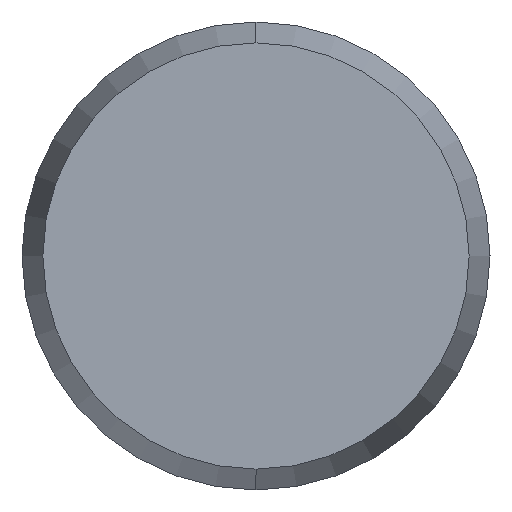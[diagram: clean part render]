
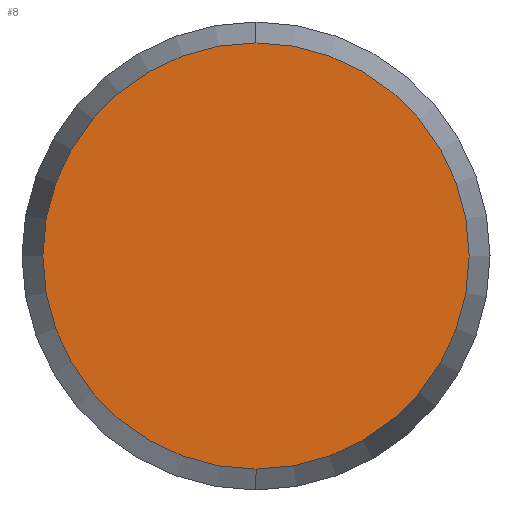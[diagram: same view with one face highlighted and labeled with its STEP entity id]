
A CAD part, left-side view. The second image highlights one B-rep face of the part: STEP entity #8.
In plain terms, the highlighted planar face has unit normal (-1, 0, 0).
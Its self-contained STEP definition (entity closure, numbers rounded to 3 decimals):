
#8 = ADVANCED_FACE ( 'NONE', ( #267 ), #259, .F. ) ;
#10 = EDGE_LOOP ( 'NONE', ( #11, #23 ) ) ;
#11 = ORIENTED_EDGE ( 'NONE', *, *, #32, .F. ) ;
#19 = VERTEX_POINT ( 'NONE', #77 ) ;
#23 = ORIENTED_EDGE ( 'NONE', *, *, #26, .F. ) ;
#26 = EDGE_CURVE ( 'NONE', #29, #19, #89, .T. ) ;
#29 = VERTEX_POINT ( 'NONE', #96 ) ;
#32 = EDGE_CURVE ( 'NONE', #19, #29, #131, .T. ) ;
#72 = AXIS2_PLACEMENT_3D ( 'NONE', #74, #73, #80 ) ;
#73 = DIRECTION ( 'NONE',  ( 1., 0., 0. ) ) ;
#74 = CARTESIAN_POINT ( 'NONE',  ( -4., 0., 0. ) ) ;
#77 = CARTESIAN_POINT ( 'NONE',  ( -4., 0., 1.366 ) ) ;
#80 = DIRECTION ( 'NONE',  ( 0., 0., -1. ) ) ;
#89 = CIRCLE ( 'NONE', #72, 1.366 ) ;
#96 = CARTESIAN_POINT ( 'NONE',  ( -4., 0., -1.366 ) ) ;
#99 = CARTESIAN_POINT ( 'NONE',  ( -4., 0., 0. ) ) ;
#131 = CIRCLE ( 'NONE', #132, 1.366 ) ;
#132 = AXIS2_PLACEMENT_3D ( 'NONE', #99, #134, #135 ) ;
#134 = DIRECTION ( 'NONE',  ( 1., 0., 0. ) ) ;
#135 = DIRECTION ( 'NONE',  ( 0., 0., -1. ) ) ;
#258 = AXIS2_PLACEMENT_3D ( 'NONE', #274, #273, #272 ) ;
#259 = PLANE ( 'NONE',  #258 ) ;
#267 = FACE_OUTER_BOUND ( 'NONE', #10, .T. ) ;
#272 = DIRECTION ( 'NONE',  ( 0., 0., -1. ) ) ;
#273 = DIRECTION ( 'NONE',  ( 1., 0., 0. ) ) ;
#274 = CARTESIAN_POINT ( 'NONE',  ( -4., 0., 0. ) ) ;
